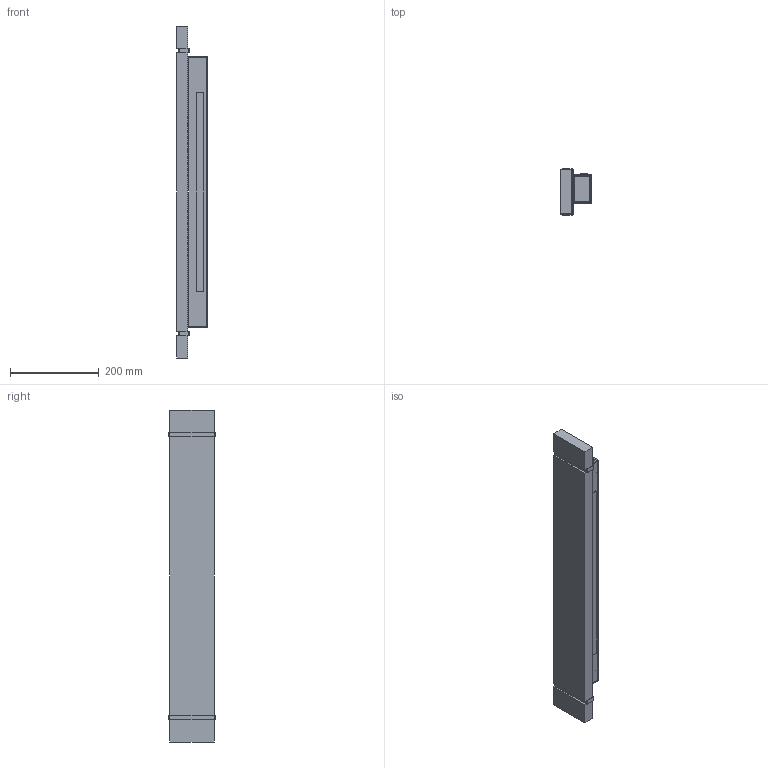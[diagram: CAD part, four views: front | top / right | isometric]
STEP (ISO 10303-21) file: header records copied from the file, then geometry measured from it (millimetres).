
FILE_DESCRIPTION (( 'STEP AP203' ), '1' );
FILE_NAME ('322_STD_W_LD_3D.STEP', '2023-10-30T10:53:29', ( '' ), ( '' ), 'SwSTEP 2.0', 'SolidWorks 2023', '' );
FILE_SCHEMA (( 'CONFIG_CONTROL_DESIGN' ));
Length unit declared in the file: millimetre
Products named in the file (1): 322_STD_W_LD_3D
Bounding box: 69 x 104 x 750 mm (x, y, z)
Volume: 2140147.3 mm3; surface area: 539300.4 mm2
Topology: 10 solids, 10 shells, 136 faces, 336 edges, 224 vertices
Faces by surface type: plane 118, cylinder 18
Entity records: 4035 total; most frequent: CARTESIAN_POINT 697, ORIENTED_EDGE 672, DIRECTION 646, EDGE_CURVE 336, VECTOR 300, LINE 300, VERTEX_POINT 224, AXIS2_PLACEMENT_3D 173
